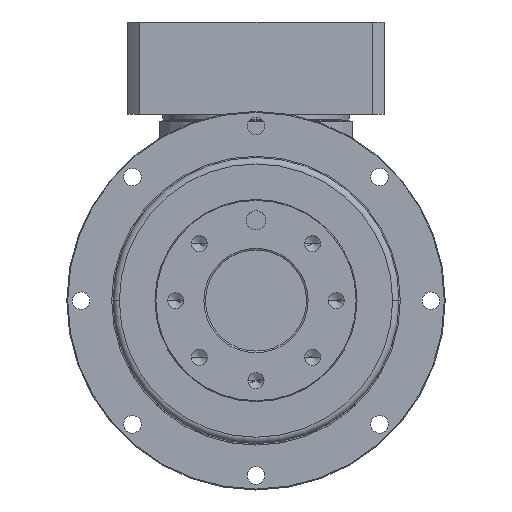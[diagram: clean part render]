
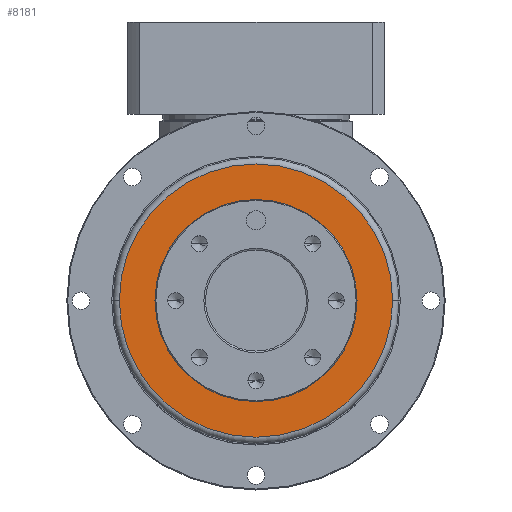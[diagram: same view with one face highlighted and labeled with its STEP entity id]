
A CAD part, top view. The second image highlights one B-rep face of the part: STEP entity #8181.
In plain terms, the highlighted planar face has unit normal (0, 0, 1).
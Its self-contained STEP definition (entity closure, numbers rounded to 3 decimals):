
#201 = EDGE_CURVE ( 'NONE', #368, #5139, #6438, .T. ) ;
#368 = VERTEX_POINT ( 'NONE', #800 ) ;
#422 = EDGE_CURVE ( 'NONE', #753, #6178, #2726, .T. ) ;
#648 = EDGE_CURVE ( 'NONE', #5139, #368, #7459, .T. ) ;
#659 = FACE_OUTER_BOUND ( 'NONE', #7565, .T. ) ;
#753 = VERTEX_POINT ( 'NONE', #4634 ) ;
#800 = CARTESIAN_POINT ( 'NONE',  ( 31.5, 0., 31. ) ) ;
#1146 = EDGE_CURVE ( 'NONE', #6178, #753, #6189, .T. ) ;
#1274 = DIRECTION ( 'NONE',  ( 0., 0., 1. ) ) ;
#1752 = DIRECTION ( 'NONE',  ( 0., 0., 1. ) ) ;
#1786 = CARTESIAN_POINT ( 'NONE',  ( 0., 0., 31. ) ) ;
#2210 = AXIS2_PLACEMENT_3D ( 'NONE', #7600, #1274, #6925 ) ;
#2709 = DIRECTION ( 'NONE',  ( 0., 0., 1. ) ) ;
#2726 = CIRCLE ( 'NONE', #8915, 42.6 ) ;
#2847 = PLANE ( 'NONE',  #5560 ) ;
#2980 = ORIENTED_EDGE ( 'NONE', *, *, #201, .F. ) ;
#3005 = CARTESIAN_POINT ( 'NONE',  ( 0., 0., 31. ) ) ;
#3457 = FACE_BOUND ( 'NONE', #7297, .T. ) ;
#3513 = DIRECTION ( 'NONE',  ( 0., 0., 1. ) ) ;
#3557 = DIRECTION ( 'NONE',  ( 1., 0., 0. ) ) ;
#4070 = ORIENTED_EDGE ( 'NONE', *, *, #1146, .T. ) ;
#4618 = DIRECTION ( 'NONE',  ( 1., 0., 0. ) ) ;
#4634 = CARTESIAN_POINT ( 'NONE',  ( 42.6, 0., 31. ) ) ;
#4853 = CARTESIAN_POINT ( 'NONE',  ( 0., 0., 31. ) ) ;
#5139 = VERTEX_POINT ( 'NONE', #6662 ) ;
#5257 = AXIS2_PLACEMENT_3D ( 'NONE', #1786, #1752, #4618 ) ;
#5560 = AXIS2_PLACEMENT_3D ( 'NONE', #4853, #3513, #3557 ) ;
#5925 = ORIENTED_EDGE ( 'NONE', *, *, #648, .F. ) ;
#6178 = VERTEX_POINT ( 'NONE', #7816 ) ;
#6189 = CIRCLE ( 'NONE', #2210, 42.6 ) ;
#6438 = CIRCLE ( 'NONE', #5257, 31.5 ) ;
#6662 = CARTESIAN_POINT ( 'NONE',  ( -31.5, 0., 31. ) ) ;
#6925 = DIRECTION ( 'NONE',  ( 1., 0., 0. ) ) ;
#7092 = DIRECTION ( 'NONE',  ( 1., 0., 0. ) ) ;
#7297 = EDGE_LOOP ( 'NONE', ( #5925, #2980 ) ) ;
#7459 = CIRCLE ( 'NONE', #7601, 31.5 ) ;
#7519 = DIRECTION ( 'NONE',  ( 1., 0., 0. ) ) ;
#7565 = EDGE_LOOP ( 'NONE', ( #7989, #4070 ) ) ;
#7600 = CARTESIAN_POINT ( 'NONE',  ( 0., 0., 31. ) ) ;
#7601 = AXIS2_PLACEMENT_3D ( 'NONE', #3005, #2709, #7519 ) ;
#7768 = CARTESIAN_POINT ( 'NONE',  ( 0., 0., 31. ) ) ;
#7816 = CARTESIAN_POINT ( 'NONE',  ( -42.6, 0., 31. ) ) ;
#7989 = ORIENTED_EDGE ( 'NONE', *, *, #422, .T. ) ;
#8181 = ADVANCED_FACE ( 'NONE', ( #3457, #659 ), #2847, .T. ) ;
#8500 = DIRECTION ( 'NONE',  ( 0., 0., 1. ) ) ;
#8915 = AXIS2_PLACEMENT_3D ( 'NONE', #7768, #8500, #7092 ) ;
